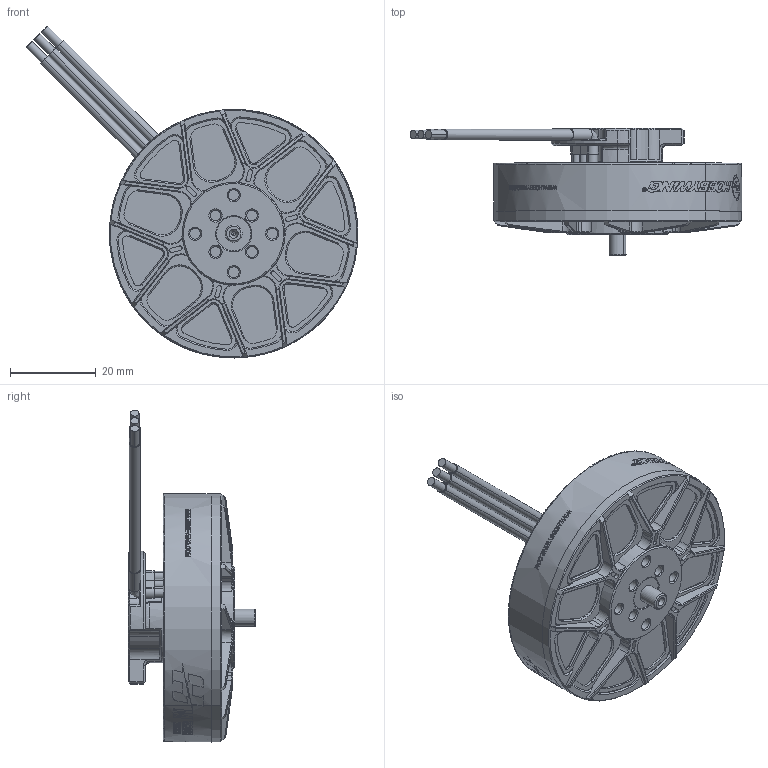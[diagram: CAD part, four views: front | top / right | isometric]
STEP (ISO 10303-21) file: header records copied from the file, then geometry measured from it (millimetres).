
FILE_DESCRIPTION (( 'STEP AP203' ), '1' );
FILE_NAME ('HM-5208-UL-萇儂3D-勤俋-231102.STEP', '2023-11-03T00:51:17', ( '' ), ( '' ), 'SwSTEP 2.0', 'SolidWorks 2021', '' );
FILE_SCHEMA (( 'CONFIG_CONTROL_DESIGN' ));
Length unit declared in the file: millimetre
Products named in the file (1): HM-5208-UL-萇儂3D-勤俋-231102
Bounding box: 77.39 x 29.7 x 77.45 mm (x, y, z)
Volume: 37099.4 mm3; surface area: 17762 mm2
Topology: 7 solids, 17 shells, 2326 faces, 6253 edges, 4080 vertices
Faces by surface type: plane 1045, bspline 638, cylinder 476, cone 167
Entity records: 105215 total; most frequent: CARTESIAN_POINT 50887, ORIENTED_EDGE 12498, DIRECTION 9517, EDGE_CURVE 6249, VERTEX_POINT 4080, AXIS2_PLACEMENT_3D 3312, VECTOR 2893, LINE 2893
